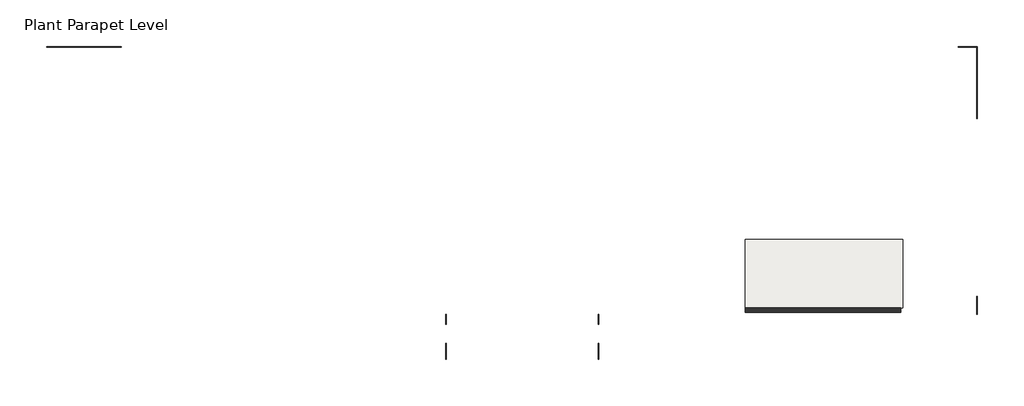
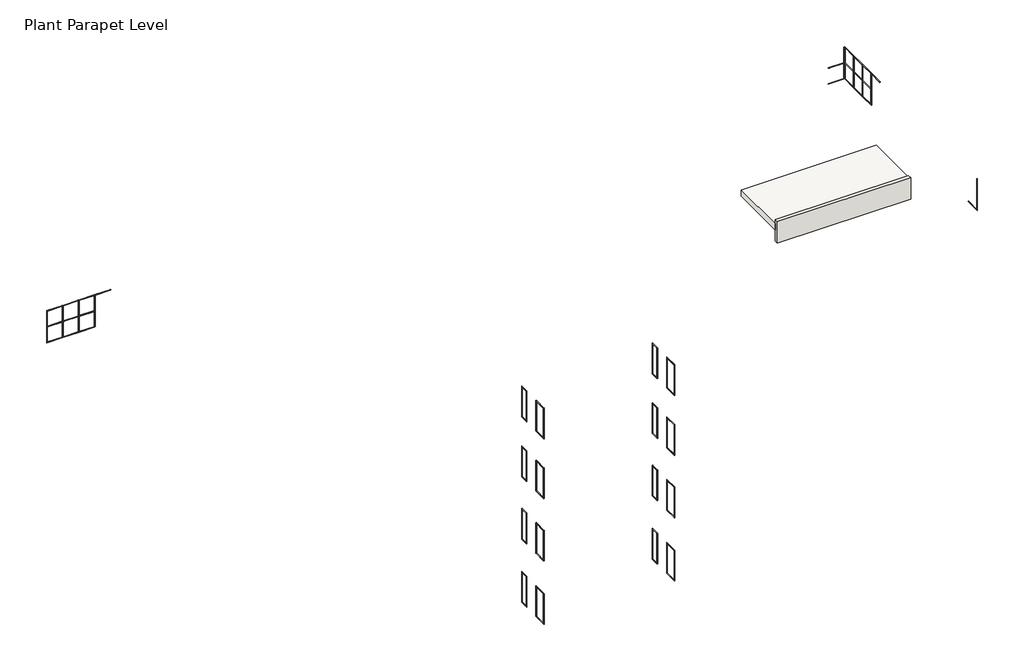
# One storey: 107 members, 1 roof, 1 wall.
"""IFC4 building model written with IfcOpenShell, lengths in millimetres."""

import ifcopenshell
import ifcopenshell.guid

model = None  # the IFC model being written
_history = None  # IfcOwnerHistory: only IFC2X3 demands one
_inside = {}  # id of a spatial element -> (the spatial element, [elements in it])
_under = {}  # id of a project, library or spatial element -> (it, [spatial elements below it])
_declared = {}  # id of a project -> (the project, [libraries it declares])
_typed = {}  # id of a type object -> (the type object, [elements of that type])
_made_of = {}  # id of a material, layer set ... -> (it, [elements and type objects made of it])


def new_model(schema):
    """Start an empty IFC model of exactly this schema.

    Asked for "IFC4X3", IfcOpenShell would pick the latest addendum, in which some entities
    have other attributes; the version numbers below select the first issue.
    IFC2X3 requires an IfcOwnerHistory on every rooted entity: one is made here for all.
    """
    global model, _history
    if schema == "IFC4X3":
        model = ifcopenshell.file(schema_version=(4, 3, 0, 0))
    else:
        model = ifcopenshell.file(schema=schema)
    _inside.clear()
    _under.clear()
    _declared.clear()
    _typed.clear()
    _made_of.clear()
    _history = None
    if model.schema == "IFC2X3":
        org = make("IfcOrganization", Name="unknown")
        user = make(
            "IfcPersonAndOrganization",
            ThePerson=make("IfcPerson", FamilyName="unknown"),
            TheOrganization=org,
        )
        app = make(
            "IfcApplication",
            ApplicationDeveloper=org,
            Version="unknown",
            ApplicationFullName="unknown",
            ApplicationIdentifier="unknown",
        )
        _history = make(
            "IfcOwnerHistory",
            OwningUser=user,
            OwningApplication=app,
            ChangeAction="ADDED",
            CreationDate=0,
        )
    return model


def make(cls, **values):
    """One entity of the class cls with the attributes given. An attribute that is None is left unset."""
    return model.create_entity(
        cls, **{name: value for name, value in values.items() if value is not None}
    )


def rooted(cls, **values):
    """An entity with a GlobalId (a new one), such as an element, a storey or a relation."""
    return make(cls, GlobalId=ifcopenshell.guid.new(), OwnerHistory=_history, **values)


def si_unit(unit_type, name, prefix=None):
    """IfcSIUnit, for example si_unit("LENGTHUNIT", "METRE", prefix="MILLI")."""
    return make("IfcSIUnit", UnitType=unit_type, Prefix=prefix, Name=name)


def assignment(units):
    """IfcUnitAssignment: the units of a project."""
    return None if units is None else make("IfcUnitAssignment", Units=units)


def point(xyz):
    """IfcCartesianPoint."""
    return None if xyz is None else make("IfcCartesianPoint", Coordinates=xyz)


def direction(xyz):
    """IfcDirection."""
    return None if xyz is None else make("IfcDirection", DirectionRatios=xyz)


def frame(location, z_axis=None, x_axis=None):
    """IfcAxis2Placement3D, a coordinate frame: its origin and axes. An axis left out is left unset."""
    return make(
        "IfcAxis2Placement3D",
        Location=point(location),
        Axis=direction(z_axis),
        RefDirection=direction(x_axis),
    )


def origin():
    """The frame at (0, 0, 0) with its axes left unset."""
    return frame((0.0, 0.0, 0.0))


def place(relative_to, where):
    """IfcLocalPlacement: puts the frame where relative to a parent placement (None: the world)."""
    return make(
        "IfcLocalPlacement", PlacementRelTo=relative_to, RelativePlacement=where
    )


def context(
    kind, dimensions, precision=None, world=None, true_north=None, identifier=None
):
    """IfcGeometricRepresentationContext, for example the 3D "Model" context."""
    return make(
        "IfcGeometricRepresentationContext",
        ContextIdentifier=identifier,
        ContextType=kind,
        CoordinateSpaceDimension=dimensions,
        Precision=precision,
        WorldCoordinateSystem=world,
        TrueNorth=true_north,
    )


def project(units=None, contexts=None):
    """IfcProject with its units and contexts."""
    return rooted(
        "IfcProject",
        Name="project",
        RepresentationContexts=contexts,
        UnitsInContext=assignment(units),
    )


def spatial(cls, under=None, at=None, **own):
    """A site, building, storey or space (cls), placed at a placement, below another one or the project."""
    s = rooted(cls, ObjectPlacement=at, **own)
    if under is not None:
        _under.setdefault(under.id(), (under, []))[1].append(s)
    return s


def polyline(points):
    """IfcPolyline through the points."""
    return make("IfcPolyline", Points=[point(p) for p in points])


def outline(outer, holes=None, kind="AREA"):
    """IfcArbitraryClosedProfileDef: a profile drawn as a closed curve; with holes, ...WithVoids."""
    if holes is None:
        return make("IfcArbitraryClosedProfileDef", ProfileType=kind, OuterCurve=outer)
    return make(
        "IfcArbitraryProfileDefWithVoids",
        ProfileType=kind,
        OuterCurve=outer,
        InnerCurves=holes,
    )


def extrude(swept, where, along, depth):
    """IfcExtrudedAreaSolid: the profile swept, set in the frame where, extruded along a direction by depth."""
    return make(
        "IfcExtrudedAreaSolid",
        SweptArea=swept,
        Position=where,
        ExtrudedDirection=direction(along),
        Depth=depth,
    )


def shape(context_of_items, identifier, shape_type, items):
    """IfcShapeRepresentation: the items that make up one representation, for example the "Body"."""
    return make(
        "IfcShapeRepresentation",
        ContextOfItems=context_of_items,
        RepresentationIdentifier=identifier,
        RepresentationType=shape_type,
        Items=items,
    )


def source(mapping_origin, context_of_items, identifier, shape_type, items):
    """IfcRepresentationMap: a shape defined once, which mapped items show again and again."""
    return make(
        "IfcRepresentationMap",
        MappingOrigin=mapping_origin,
        MappedRepresentation=shape(context_of_items, identifier, shape_type, items),
    )


def transform(
    local_origin,
    x_axis=None,
    y_axis=None,
    z_axis=None,
    scale=None,
    scale2=None,
    scale3=None,
    uniform=True,
):
    """IfcCartesianTransformationOperator3D, or its non-uniform kind. x_axis, y_axis, z_axis: its Axis1, 2, 3."""
    if uniform:
        return make(
            "IfcCartesianTransformationOperator3D",
            Axis1=direction(x_axis),
            Axis2=direction(y_axis),
            LocalOrigin=point(local_origin),
            Scale=scale,
            Axis3=direction(z_axis),
        )
    return make(
        "IfcCartesianTransformationOperator3DnonUniform",
        Axis1=direction(x_axis),
        Axis2=direction(y_axis),
        LocalOrigin=point(local_origin),
        Scale=scale,
        Axis3=direction(z_axis),
        Scale2=scale2,
        Scale3=scale3,
    )


def mapped(mapping_source, mapping_target):
    """IfcMappedItem: shows the shape of a source again, moved by a transform."""
    return make(
        "IfcMappedItem", MappingSource=mapping_source, MappingTarget=mapping_target
    )


def made_of(thing, what):
    """Note that an element or type object is made of a material, layer set ...; save() writes the relation."""
    if what is not None:
        _made_of.setdefault(what.id(), (what, []))[1].append(thing)
    return thing


def element(
    cls,
    number,
    at=None,
    inside=None,
    cuts=None,
    type_object=None,
    material=None,
    context=None,
    identifier="Body",
    shape_type=None,
    held_by="IfcProductDefinitionShape",
    body=None,
    shapes=None,
    **own,
):
    """One element of the class cls, such as IfcWall. Its Tag is "e" and its number.

    at: its placement. inside: the storey or other place that contains it. cuts: it is an
    opening in that element (IfcRelVoidsElement). A single representation is given by context,
    identifier, shape_type and body (its items); several are given by shapes. held_by: the class
    of the entity that holds the representations. save() writes the other relations.
    """
    e = rooted(cls, Tag="e%d" % number, ObjectPlacement=at, **own)
    if body is not None:
        shapes = [shape(context, identifier, shape_type, body)]
    if shapes is not None:
        e.Representation = make(held_by, Representations=shapes)
    if inside is not None:
        _inside.setdefault(inside.id(), (inside, []))[1].append(e)
    if cuts is not None:
        rooted(
            "IfcRelVoidsElement", RelatingBuildingElement=cuts, RelatedOpeningElement=e
        )
    if type_object is not None:
        _typed.setdefault(type_object.id(), (type_object, []))[1].append(e)
    return made_of(e, material)


def aggregate(whole, parts):
    """IfcRelAggregates: a whole, such as a stair, and the parts it consists of."""
    return rooted("IfcRelAggregates", RelatingObject=whole, RelatedObjects=parts)


def save(model, path):
    """Write the relations noted so far, then the file.

    IfcRelAggregates (storeys below a building ...), IfcRelContainedInSpatialStructure (elements
    in a storey), IfcRelDefinesByType, IfcRelAssociatesMaterial and IfcRelDeclares: one each for
    every whole, place, type object, material and project.
    """
    for whole, parts in _under.values():
        aggregate(whole, parts)
    for where, things in _inside.values():
        rooted(
            "IfcRelContainedInSpatialStructure",
            RelatedElements=things,
            RelatingStructure=where,
        )
    for kind, things in _typed.values():
        rooted("IfcRelDefinesByType", RelatedObjects=things, RelatingType=kind)
    for what, things in _made_of.values():
        rooted("IfcRelAssociatesMaterial", RelatedObjects=things, RelatingMaterial=what)
    for by, libraries in _declared.values():
        rooted("IfcRelDeclares", RelatingContext=by, RelatedDefinitions=libraries)
    model.write(path)


def rectangular_mullion_25x25mm_8b97148a(model_context):
    return source(origin(), model_context, "Body", "SweptSolid", [
        extrude(outline(polyline([(0.0, 0.5), (0.0, -24.5), (-25.0, -24.5), (-25.0, 0.5), (0.0, 0.5)])), frame((0.0, 0.0, -710.0), z_axis=(0.0, 0.0, 1.0), x_axis=(1.0, 0.0, 0.0)), (0.0, 0.0, 1.0), 710.0),
    ])


def rectangular_mullion_25x25mm_4954c3ac(model_context):
    return source(origin(), model_context, "Body", "SweptSolid", [
        extrude(outline(polyline([(0.0, 0.5), (0.0, -24.5), (-25.0, -24.5), (-25.0, 0.5), (0.0, 0.5)])), frame((0.0, 0.0, -1810.0), z_axis=(0.0, 0.0, 1.0), x_axis=(1.0, 0.0, 0.0)), (0.0, 0.0, 1.0), 1810.0),
    ])


def rectangular_mullion_25x25mm_dab48287(model_context):
    return source(origin(), model_context, "Body", "SweptSolid", [
        extrude(outline(polyline([(0.0, 0.5), (0.0, -24.5), (-25.0, -24.5), (-25.0, 0.5), (0.0, 0.5)])), frame((0.0, 0.0, -436.25), z_axis=(0.0, 0.0, 1.0), x_axis=(1.0, 0.0, 0.0)), (0.0, 0.0, 1.0), 436.25),
    ])


def rectangular_mullion_25x25mm_bb12a420(model_context):
    return source(origin(), model_context, "Body", "SweptSolid", [
        extrude(outline(polyline([(0.0, 24.5), (0.0, -0.5), (-25.0, -0.5), (-25.0, 24.5), (0.0, 24.5)])), frame((0.0, 0.0, -710.0), z_axis=(0.0, 0.0, 1.0), x_axis=(1.0, 0.0, 0.0)), (0.0, 0.0, 1.0), 710.0),
    ])


def rectangular_mullion_25x25mm_6c4dc9a9(model_context):
    return source(origin(), model_context, "Body", "SweptSolid", [
        extrude(outline(polyline([(0.0, 24.5), (0.0, -0.5), (-25.0, -0.5), (-25.0, 24.5), (0.0, 24.5)])), frame((0.0, 0.0, -1810.0), z_axis=(0.0, 0.0, 1.0), x_axis=(1.0, 0.0, 0.0)), (0.0, 0.0, 1.0), 1810.0),
    ])


def rectangular_mullion_25x25mm_394869ee(model_context):
    return source(origin(), model_context, "Body", "SweptSolid", [
        extrude(outline(polyline([(0.0, 24.5), (0.0, -0.5), (-25.0, -0.5), (-25.0, 24.5), (0.0, 24.5)])), frame((0.0, 0.0, -436.25), z_axis=(0.0, 0.0, 1.0), x_axis=(1.0, 0.0, 0.0)), (0.0, 0.0, 1.0), 436.25),
    ])


def rectangular_mullion_25x25mm_ef735152(model_context):
    return source(origin(), model_context, "Body", "SweptSolid", [
        extrude(outline(polyline([(12.5, 24.5), (12.5, -0.5), (-12.5, -0.5), (-12.5, 24.5), (12.5, 24.5)])), frame((0.0, 0.0, -925.0), z_axis=(0.0, 0.0, 1.0), x_axis=(1.0, 0.0, 0.0)), (0.0, 0.0, 1.0), 925.0),
    ])


def rectangular_mullion_25x25mm_fdefeb7a(model_context):
    return source(origin(), model_context, "Body", "SweptSolid", [
        extrude(outline(polyline([(0.0, 24.5), (0.0, -0.5), (-25.0, -0.5), (-25.0, 24.5), (0.0, 24.5)])), frame((0.0, 0.0, -925.0), z_axis=(0.0, 0.0, 1.0), x_axis=(1.0, 0.0, 0.0)), (0.0, 0.0, 1.0), 925.0),
    ])


def rectangular_mullion_25x25mm_e320bbb5(model_context):
    return source(origin(), model_context, "Body", "SweptSolid", [
        extrude(outline(polyline([(0.0, 24.5), (0.0, -0.5), (-25.0, -0.5), (-25.0, 24.5), (0.0, 24.5)])), frame((0.0, 0.0, -906.7603315), z_axis=(0.0, 0.0, 1.0), x_axis=(1.0, 0.0, 0.0)), (0.0, 0.0, 1.0), 906.7603315),
    ])


def rectangular_mullion_25x25mm_e862664b(model_context):
    return source(origin(), model_context, "Body", "SweptSolid", [
        extrude(outline(polyline([(0.0, 24.5), (0.0, -0.5), (-25.0, -0.5), (-25.0, 24.5), (0.0, 24.5)])), frame((0.0, 0.0, -894.2603312), z_axis=(0.0, 0.0, 1.0), x_axis=(1.0, 0.0, 0.0)), (0.0, 0.0, 1.0), 894.2603312),
    ])


def rectangular_mullion_25x25mm_5cbb2f7b(model_context):
    return source(origin(), model_context, "Body", "SweptSolid", [
        extrude(outline(polyline([(12.5, 24.5), (12.5, -0.5), (-12.5, -0.5), (-12.5, 24.5), (12.5, 24.5)])), frame((0.0, 0.0, -869.2603315), z_axis=(0.0, 0.0, 1.0), x_axis=(1.0, 0.0, 0.0)), (0.0, 0.0, 1.0), 869.2603315),
    ])


def rectangular_mullion_25x25mm_1307ac6f(model_context):
    return source(origin(), model_context, "Body", "SweptSolid", [
        extrude(outline(polyline([(-0.5, -0.5), (24.5, 24.5), (24.5, -906.7703315), (-0.5, -906.7703315), (-0.5, -0.5)])), frame((-25.0, 0.0, 0.0), z_axis=(1.0, 0.0, 0.0), x_axis=(0.0, 1.0, 0.0)), (0.0, 0.0, 1.0), 25.0),
    ])


def rectangular_mullion_25x25mm_8def5214(model_context):
    return source(origin(), model_context, "Body", "SweptSolid", [
        extrude(outline(polyline([(-0.5, 0.0), (24.5, 0.0), (24.5, -893.2836067), (-0.5, -868.2836067), (-0.5, 0.0)])), frame((-25.0, 0.0, 0.0), z_axis=(1.0, 0.0, 0.0), x_axis=(0.0, 1.0, 0.0)), (0.0, 0.0, 1.0), 25.0),
    ])


def rectangular_mullion_25x25mm_4c6f7a3a(model_context):
    return source(origin(), model_context, "Body", "SweptSolid", [
        extrude(outline(polyline([(-0.5, -0.5), (24.5, 24.5), (24.5, -868.7836067), (-0.5, -868.7836067), (-0.5, -0.5)])), frame((-25.0, 0.0, 0.0), z_axis=(1.0, 0.0, 0.0), x_axis=(0.0, 1.0, 0.0)), (0.0, 0.0, 1.0), 25.0),
    ])


def rectangular_mullion_25x25mm_4965c664(model_context):
    return source(origin(), model_context, "Body", "SweptSolid", [
        extrude(outline(polyline([(0.0, 24.5), (0.0, -0.5), (-25.0, -0.5), (-25.0, 24.5), (0.0, 24.5)])), frame((0.0, 0.0, -856.2836064), z_axis=(0.0, 0.0, 1.0), x_axis=(1.0, 0.0, 0.0)), (0.0, 0.0, 1.0), 856.2836064),
    ])


def rectangular_mullion_25x25mm_24ec2a09(model_context):
    return source(origin(), model_context, "Body", "SweptSolid", [
        extrude(outline(polyline([(0.0, 24.5), (0.0, -0.5), (-25.0, -0.5), (-25.0, 24.5), (0.0, 24.5)])), frame((0.0, 0.0, -868.7836067), z_axis=(0.0, 0.0, 1.0), x_axis=(1.0, 0.0, 0.0)), (0.0, 0.0, 1.0), 868.7836067),
    ])


def rectangular_mullion_25x25mm_c76a5620(model_context):
    return source(origin(), model_context, "Body", "SweptSolid", [
        extrude(outline(polyline([(12.5, 24.5), (12.5, -0.5), (-12.5, -0.5), (-12.5, 24.5), (12.5, 24.5)])), frame((0.0, 0.0, -831.2836064), z_axis=(0.0, 0.0, 1.0), x_axis=(1.0, 0.0, 0.0)), (0.0, 0.0, 1.0), 831.2836064),
    ])


model = new_model("IFC4")

# Units and contexts
model_context = context("Model", 3, world=origin())
ifc_project = project(units=[si_unit("LENGTHUNIT", "METRE", prefix="MILLI")], contexts=[model_context])

# Site, building, storey
site = spatial("IfcSite", under=ifc_project)
building = spatial("IfcBuilding", under=site)
storey = spatial("IfcBuildingStorey", under=building, Name="Plant Parapet Level", Elevation=16500.0)

# Members
placement = place(None, origin())
rectangular_mullion_25x25mm_shape = rectangular_mullion_25x25mm_8b97148a(model_context)
element("IfcMember", 1, ObjectType="Rectangular Mullion : 25x25mm", at=placement, inside=storey, context=model_context, shape_type="MappedRepresentation", body=[
    mapped(rectangular_mullion_25x25mm_shape, transform((24873.2942367, -5692.5053409, 2110.0), x_axis=(0.0, 0.0, 1.0), y_axis=(-1.0, 0.0, 0.0), z_axis=(0.0, -1.0, 0.0))),
])
element("IfcMember", 2, ObjectType="Rectangular Mullion : 25x25mm", at=placement, inside=storey, context=model_context, shape_type="MappedRepresentation", body=[
    mapped(rectangular_mullion_25x25mm_shape, transform((24873.2942367, -5692.5053409, 5860.0), x_axis=(0.0, 0.0, 1.0), y_axis=(-1.0, 0.0, 0.0), z_axis=(0.0, -1.0, 0.0))),
])
element("IfcMember", 3, ObjectType="Rectangular Mullion : 25x25mm", at=placement, inside=storey, context=model_context, shape_type="MappedRepresentation", body=[
    mapped(rectangular_mullion_25x25mm_shape, transform((24873.2942367, -5692.5053409, 9560.0), x_axis=(0.0, 0.0, 1.0), y_axis=(-1.0, 0.0, 0.0), z_axis=(0.0, -1.0, 0.0))),
])
element("IfcMember", 4, ObjectType="Rectangular Mullion : 25x25mm", at=placement, inside=storey, context=model_context, shape_type="MappedRepresentation", body=[
    mapped(rectangular_mullion_25x25mm_shape, transform((24873.2942367, -5692.5053409, 13110.0), x_axis=(0.0, 0.0, 1.0), y_axis=(-1.0, 0.0, 0.0), z_axis=(0.0, -1.0, 0.0))),
])
element("IfcMember", 5, ObjectType="Rectangular Mullion : 25x25mm", at=placement, inside=storey, context=model_context, shape_type="MappedRepresentation", body=[
    mapped(rectangular_mullion_25x25mm_shape, transform((24873.2942367, -4982.5053409, 300.0), x_axis=(0.0, 0.0, -1.0), y_axis=(-1.0, 0.0, 0.0), z_axis=(0.0, 1.0, 0.0))),
])
element("IfcMember", 6, ObjectType="Rectangular Mullion : 25x25mm", at=placement, inside=storey, context=model_context, shape_type="MappedRepresentation", body=[
    mapped(rectangular_mullion_25x25mm_shape, transform((24873.2942367, -4982.5053409, 4050.0), x_axis=(0.0, 0.0, -1.0), y_axis=(-1.0, 0.0, 0.0), z_axis=(0.0, 1.0, 0.0))),
])
element("IfcMember", 7, ObjectType="Rectangular Mullion : 25x25mm", at=placement, inside=storey, context=model_context, shape_type="MappedRepresentation", body=[
    mapped(rectangular_mullion_25x25mm_shape, transform((24873.2942367, -4982.5053409, 7750.0), x_axis=(0.0, 0.0, -1.0), y_axis=(-1.0, 0.0, 0.0), z_axis=(0.0, 1.0, 0.0))),
])
element("IfcMember", 8, ObjectType="Rectangular Mullion : 25x25mm", at=placement, inside=storey, context=model_context, shape_type="MappedRepresentation", body=[
    mapped(rectangular_mullion_25x25mm_shape, transform((24873.2942367, -4982.5053409, 11300.0), x_axis=(0.0, 0.0, -1.0), y_axis=(-1.0, 0.0, 0.0), z_axis=(0.0, 1.0, 0.0))),
])
rectangular_mullion_25x25mm_2_shape = rectangular_mullion_25x25mm_4954c3ac(model_context)
element("IfcMember", 9, ObjectType="Rectangular Mullion : 25x25mm", at=placement, inside=storey, context=model_context, shape_type="MappedRepresentation", body=[
    mapped(rectangular_mullion_25x25mm_2_shape, transform((24873.2942367, -5717.5053409, 300.0), x_axis=(0.0, -1.0, 0.0), y_axis=(-1.0, 0.0, 0.0), z_axis=(0.0, 0.0, -1.0))),
])
element("IfcMember", 10, ObjectType="Rectangular Mullion : 25x25mm", at=placement, inside=storey, context=model_context, shape_type="MappedRepresentation", body=[
    mapped(rectangular_mullion_25x25mm_2_shape, transform((24873.2942367, -4046.2553409, 300.0), x_axis=(0.0, -1.0, 0.0), y_axis=(-1.0, 0.0, 0.0), z_axis=(0.0, 0.0, -1.0))),
])
element("IfcMember", 11, ObjectType="Rectangular Mullion : 25x25mm", at=placement, inside=storey, context=model_context, shape_type="MappedRepresentation", body=[
    mapped(rectangular_mullion_25x25mm_2_shape, transform((24873.2942367, -5717.5053409, 4050.0), x_axis=(0.0, -1.0, 0.0), y_axis=(-1.0, 0.0, 0.0), z_axis=(0.0, 0.0, -1.0))),
])
element("IfcMember", 12, ObjectType="Rectangular Mullion : 25x25mm", at=placement, inside=storey, context=model_context, shape_type="MappedRepresentation", body=[
    mapped(rectangular_mullion_25x25mm_2_shape, transform((24873.2942367, -4046.2553409, 4050.0), x_axis=(0.0, -1.0, 0.0), y_axis=(-1.0, 0.0, 0.0), z_axis=(0.0, 0.0, -1.0))),
])
element("IfcMember", 13, ObjectType="Rectangular Mullion : 25x25mm", at=placement, inside=storey, context=model_context, shape_type="MappedRepresentation", body=[
    mapped(rectangular_mullion_25x25mm_2_shape, transform((24873.2942367, -5717.5053409, 7750.0), x_axis=(0.0, -1.0, 0.0), y_axis=(-1.0, 0.0, 0.0), z_axis=(0.0, 0.0, -1.0))),
])
element("IfcMember", 14, ObjectType="Rectangular Mullion : 25x25mm", at=placement, inside=storey, context=model_context, shape_type="MappedRepresentation", body=[
    mapped(rectangular_mullion_25x25mm_2_shape, transform((24873.2942367, -4046.2553409, 7750.0), x_axis=(0.0, -1.0, 0.0), y_axis=(-1.0, 0.0, 0.0), z_axis=(0.0, 0.0, -1.0))),
])
element("IfcMember", 15, ObjectType="Rectangular Mullion : 25x25mm", at=placement, inside=storey, context=model_context, shape_type="MappedRepresentation", body=[
    mapped(rectangular_mullion_25x25mm_2_shape, transform((24873.2942367, -5717.5053409, 11300.0), x_axis=(0.0, -1.0, 0.0), y_axis=(-1.0, 0.0, 0.0), z_axis=(0.0, 0.0, -1.0))),
])
element("IfcMember", 16, ObjectType="Rectangular Mullion : 25x25mm", at=placement, inside=storey, context=model_context, shape_type="MappedRepresentation", body=[
    mapped(rectangular_mullion_25x25mm_2_shape, transform((24873.2942367, -4046.2553409, 11300.0), x_axis=(0.0, -1.0, 0.0), y_axis=(-1.0, 0.0, 0.0), z_axis=(0.0, 0.0, -1.0))),
])
element("IfcMember", 17, ObjectType="Rectangular Mullion : 25x25mm", at=placement, inside=storey, context=model_context, shape_type="MappedRepresentation", body=[
    mapped(rectangular_mullion_25x25mm_2_shape, transform((24873.2942367, -4957.5053409, 2110.0), x_axis=(0.0, 1.0, 0.0), y_axis=(-1.0, 0.0, 0.0), z_axis=(0.0, 0.0, 1.0))),
])
element("IfcMember", 18, ObjectType="Rectangular Mullion : 25x25mm", at=placement, inside=storey, context=model_context, shape_type="MappedRepresentation", body=[
    mapped(rectangular_mullion_25x25mm_2_shape, transform((24873.2942367, -3560.0053409, 2110.0), x_axis=(0.0, 1.0, 0.0), y_axis=(-1.0, 0.0, 0.0), z_axis=(0.0, 0.0, 1.0))),
])
element("IfcMember", 19, ObjectType="Rectangular Mullion : 25x25mm", at=placement, inside=storey, context=model_context, shape_type="MappedRepresentation", body=[
    mapped(rectangular_mullion_25x25mm_2_shape, transform((24873.2942367, -4957.5053409, 5860.0), x_axis=(0.0, 1.0, 0.0), y_axis=(-1.0, 0.0, 0.0), z_axis=(0.0, 0.0, 1.0))),
])
element("IfcMember", 20, ObjectType="Rectangular Mullion : 25x25mm", at=placement, inside=storey, context=model_context, shape_type="MappedRepresentation", body=[
    mapped(rectangular_mullion_25x25mm_2_shape, transform((24873.2942367, -3560.0053409, 5860.0), x_axis=(0.0, 1.0, 0.0), y_axis=(-1.0, 0.0, 0.0), z_axis=(0.0, 0.0, 1.0))),
])
element("IfcMember", 21, ObjectType="Rectangular Mullion : 25x25mm", at=placement, inside=storey, context=model_context, shape_type="MappedRepresentation", body=[
    mapped(rectangular_mullion_25x25mm_2_shape, transform((24873.2942367, -4957.5053409, 9560.0), x_axis=(0.0, 1.0, 0.0), y_axis=(-1.0, 0.0, 0.0), z_axis=(0.0, 0.0, 1.0))),
])
element("IfcMember", 22, ObjectType="Rectangular Mullion : 25x25mm", at=placement, inside=storey, context=model_context, shape_type="MappedRepresentation", body=[
    mapped(rectangular_mullion_25x25mm_2_shape, transform((24873.2942367, -3560.0053409, 9560.0), x_axis=(0.0, 1.0, 0.0), y_axis=(-1.0, 0.0, 0.0), z_axis=(0.0, 0.0, 1.0))),
])
element("IfcMember", 23, ObjectType="Rectangular Mullion : 25x25mm", at=placement, inside=storey, context=model_context, shape_type="MappedRepresentation", body=[
    mapped(rectangular_mullion_25x25mm_2_shape, transform((24873.2942367, -4957.5053409, 13110.0), x_axis=(0.0, 1.0, 0.0), y_axis=(-1.0, 0.0, 0.0), z_axis=(0.0, 0.0, 1.0))),
])
element("IfcMember", 24, ObjectType="Rectangular Mullion : 25x25mm", at=placement, inside=storey, context=model_context, shape_type="MappedRepresentation", body=[
    mapped(rectangular_mullion_25x25mm_2_shape, transform((24873.2942367, -3560.0053409, 13110.0), x_axis=(0.0, 1.0, 0.0), y_axis=(-1.0, 0.0, 0.0), z_axis=(0.0, 0.0, 1.0))),
])
rectangular_mullion_25x25mm_3_shape = rectangular_mullion_25x25mm_dab48287(model_context)
element("IfcMember", 25, ObjectType="Rectangular Mullion : 25x25mm", at=placement, inside=storey, context=model_context, shape_type="MappedRepresentation", body=[
    mapped(rectangular_mullion_25x25mm_3_shape, transform((24873.2942367, -4021.2553409, 2110.0), x_axis=(0.0, 0.0, 1.0), y_axis=(-1.0, 0.0, 0.0), z_axis=(0.0, -1.0, 0.0))),
])
element("IfcMember", 26, ObjectType="Rectangular Mullion : 25x25mm", at=placement, inside=storey, context=model_context, shape_type="MappedRepresentation", body=[
    mapped(rectangular_mullion_25x25mm_3_shape, transform((24873.2942367, -4021.2553409, 5860.0), x_axis=(0.0, 0.0, 1.0), y_axis=(-1.0, 0.0, 0.0), z_axis=(0.0, -1.0, 0.0))),
])
element("IfcMember", 27, ObjectType="Rectangular Mullion : 25x25mm", at=placement, inside=storey, context=model_context, shape_type="MappedRepresentation", body=[
    mapped(rectangular_mullion_25x25mm_3_shape, transform((24873.2942367, -4021.2553409, 9560.0), x_axis=(0.0, 0.0, 1.0), y_axis=(-1.0, 0.0, 0.0), z_axis=(0.0, -1.0, 0.0))),
])
element("IfcMember", 28, ObjectType="Rectangular Mullion : 25x25mm", at=placement, inside=storey, context=model_context, shape_type="MappedRepresentation", body=[
    mapped(rectangular_mullion_25x25mm_3_shape, transform((24873.2942367, -4021.2553409, 13110.0), x_axis=(0.0, 0.0, 1.0), y_axis=(-1.0, 0.0, 0.0), z_axis=(0.0, -1.0, 0.0))),
])
element("IfcMember", 29, ObjectType="Rectangular Mullion : 25x25mm", at=placement, inside=storey, context=model_context, shape_type="MappedRepresentation", body=[
    mapped(rectangular_mullion_25x25mm_3_shape, transform((24873.2942367, -3585.0053409, 300.0), x_axis=(0.0, 0.0, -1.0), y_axis=(-1.0, 0.0, 0.0), z_axis=(0.0, 1.0, 0.0))),
])
element("IfcMember", 30, ObjectType="Rectangular Mullion : 25x25mm", at=placement, inside=storey, context=model_context, shape_type="MappedRepresentation", body=[
    mapped(rectangular_mullion_25x25mm_3_shape, transform((24873.2942367, -3585.0053409, 4050.0), x_axis=(0.0, 0.0, -1.0), y_axis=(-1.0, 0.0, 0.0), z_axis=(0.0, 1.0, 0.0))),
])
element("IfcMember", 31, ObjectType="Rectangular Mullion : 25x25mm", at=placement, inside=storey, context=model_context, shape_type="MappedRepresentation", body=[
    mapped(rectangular_mullion_25x25mm_3_shape, transform((24873.2942367, -3585.0053409, 7750.0), x_axis=(0.0, 0.0, -1.0), y_axis=(-1.0, 0.0, 0.0), z_axis=(0.0, 1.0, 0.0))),
])
element("IfcMember", 32, ObjectType="Rectangular Mullion : 25x25mm", at=placement, inside=storey, context=model_context, shape_type="MappedRepresentation", body=[
    mapped(rectangular_mullion_25x25mm_3_shape, transform((24873.2942367, -3585.0053409, 11300.0), x_axis=(0.0, 0.0, -1.0), y_axis=(-1.0, 0.0, 0.0), z_axis=(0.0, 1.0, 0.0))),
])
rectangular_mullion_25x25mm_4_shape = rectangular_mullion_25x25mm_bb12a420(model_context)
element("IfcMember", 33, ObjectType="Rectangular Mullion : 25x25mm", at=placement, inside=storey, context=model_context, shape_type="MappedRepresentation", body=[
    mapped(rectangular_mullion_25x25mm_4_shape, transform((17573.2942367, -5692.5053409, 2110.0), x_axis=(0.0, 0.0, 1.0), y_axis=(-1.0, 0.0, 0.0), z_axis=(0.0, -1.0, 0.0))),
])
element("IfcMember", 34, ObjectType="Rectangular Mullion : 25x25mm", at=placement, inside=storey, context=model_context, shape_type="MappedRepresentation", body=[
    mapped(rectangular_mullion_25x25mm_4_shape, transform((17573.2942367, -5692.5053409, 5860.0), x_axis=(0.0, 0.0, 1.0), y_axis=(-1.0, 0.0, 0.0), z_axis=(0.0, -1.0, 0.0))),
])
element("IfcMember", 35, ObjectType="Rectangular Mullion : 25x25mm", at=placement, inside=storey, context=model_context, shape_type="MappedRepresentation", body=[
    mapped(rectangular_mullion_25x25mm_4_shape, transform((17573.2942367, -5692.5053409, 9560.0), x_axis=(0.0, 0.0, 1.0), y_axis=(-1.0, 0.0, 0.0), z_axis=(0.0, -1.0, 0.0))),
])
element("IfcMember", 36, ObjectType="Rectangular Mullion : 25x25mm", at=placement, inside=storey, context=model_context, shape_type="MappedRepresentation", body=[
    mapped(rectangular_mullion_25x25mm_4_shape, transform((17573.2942367, -5692.5053409, 13110.0), x_axis=(0.0, 0.0, 1.0), y_axis=(-1.0, 0.0, 0.0), z_axis=(0.0, -1.0, 0.0))),
])
element("IfcMember", 37, ObjectType="Rectangular Mullion : 25x25mm", at=placement, inside=storey, context=model_context, shape_type="MappedRepresentation", body=[
    mapped(rectangular_mullion_25x25mm_4_shape, transform((17573.2942367, -4982.5053409, 300.0), x_axis=(0.0, 0.0, -1.0), y_axis=(-1.0, 0.0, 0.0), z_axis=(0.0, 1.0, 0.0))),
])
element("IfcMember", 38, ObjectType="Rectangular Mullion : 25x25mm", at=placement, inside=storey, context=model_context, shape_type="MappedRepresentation", body=[
    mapped(rectangular_mullion_25x25mm_4_shape, transform((17573.2942367, -4982.5053409, 4050.0), x_axis=(0.0, 0.0, -1.0), y_axis=(-1.0, 0.0, 0.0), z_axis=(0.0, 1.0, 0.0))),
])
element("IfcMember", 39, ObjectType="Rectangular Mullion : 25x25mm", at=placement, inside=storey, context=model_context, shape_type="MappedRepresentation", body=[
    mapped(rectangular_mullion_25x25mm_4_shape, transform((17573.2942367, -4982.5053409, 7750.0), x_axis=(0.0, 0.0, -1.0), y_axis=(-1.0, 0.0, 0.0), z_axis=(0.0, 1.0, 0.0))),
])
element("IfcMember", 40, ObjectType="Rectangular Mullion : 25x25mm", at=placement, inside=storey, context=model_context, shape_type="MappedRepresentation", body=[
    mapped(rectangular_mullion_25x25mm_4_shape, transform((17573.2942367, -4982.5053409, 11300.0), x_axis=(0.0, 0.0, -1.0), y_axis=(-1.0, 0.0, 0.0), z_axis=(0.0, 1.0, 0.0))),
])
rectangular_mullion_25x25mm_5_shape = rectangular_mullion_25x25mm_6c4dc9a9(model_context)
element("IfcMember", 41, ObjectType="Rectangular Mullion : 25x25mm", at=placement, inside=storey, context=model_context, shape_type="MappedRepresentation", body=[
    mapped(rectangular_mullion_25x25mm_5_shape, transform((17573.2942367, -5717.5053409, 300.0), x_axis=(0.0, -1.0, 0.0), y_axis=(-1.0, 0.0, 0.0), z_axis=(0.0, 0.0, -1.0))),
])
element("IfcMember", 42, ObjectType="Rectangular Mullion : 25x25mm", at=placement, inside=storey, context=model_context, shape_type="MappedRepresentation", body=[
    mapped(rectangular_mullion_25x25mm_5_shape, transform((17573.2942367, -4046.2553409, 300.0), x_axis=(0.0, -1.0, 0.0), y_axis=(-1.0, 0.0, 0.0), z_axis=(0.0, 0.0, -1.0))),
])
element("IfcMember", 43, ObjectType="Rectangular Mullion : 25x25mm", at=placement, inside=storey, context=model_context, shape_type="MappedRepresentation", body=[
    mapped(rectangular_mullion_25x25mm_5_shape, transform((17573.2942367, -5717.5053409, 4050.0), x_axis=(0.0, -1.0, 0.0), y_axis=(-1.0, 0.0, 0.0), z_axis=(0.0, 0.0, -1.0))),
])
element("IfcMember", 44, ObjectType="Rectangular Mullion : 25x25mm", at=placement, inside=storey, context=model_context, shape_type="MappedRepresentation", body=[
    mapped(rectangular_mullion_25x25mm_5_shape, transform((17573.2942367, -4046.2553409, 4050.0), x_axis=(0.0, -1.0, 0.0), y_axis=(-1.0, 0.0, 0.0), z_axis=(0.0, 0.0, -1.0))),
])
element("IfcMember", 45, ObjectType="Rectangular Mullion : 25x25mm", at=placement, inside=storey, context=model_context, shape_type="MappedRepresentation", body=[
    mapped(rectangular_mullion_25x25mm_5_shape, transform((17573.2942367, -5717.5053409, 7750.0), x_axis=(0.0, -1.0, 0.0), y_axis=(-1.0, 0.0, 0.0), z_axis=(0.0, 0.0, -1.0))),
])
element("IfcMember", 46, ObjectType="Rectangular Mullion : 25x25mm", at=placement, inside=storey, context=model_context, shape_type="MappedRepresentation", body=[
    mapped(rectangular_mullion_25x25mm_5_shape, transform((17573.2942367, -4046.2553409, 7750.0), x_axis=(0.0, -1.0, 0.0), y_axis=(-1.0, 0.0, 0.0), z_axis=(0.0, 0.0, -1.0))),
])
element("IfcMember", 47, ObjectType="Rectangular Mullion : 25x25mm", at=placement, inside=storey, context=model_context, shape_type="MappedRepresentation", body=[
    mapped(rectangular_mullion_25x25mm_5_shape, transform((17573.2942367, -5717.5053409, 11300.0), x_axis=(0.0, -1.0, 0.0), y_axis=(-1.0, 0.0, 0.0), z_axis=(0.0, 0.0, -1.0))),
])
element("IfcMember", 48, ObjectType="Rectangular Mullion : 25x25mm", at=placement, inside=storey, context=model_context, shape_type="MappedRepresentation", body=[
    mapped(rectangular_mullion_25x25mm_5_shape, transform((17573.2942367, -4046.2553409, 11300.0), x_axis=(0.0, -1.0, 0.0), y_axis=(-1.0, 0.0, 0.0), z_axis=(0.0, 0.0, -1.0))),
])
element("IfcMember", 49, ObjectType="Rectangular Mullion : 25x25mm", at=placement, inside=storey, context=model_context, shape_type="MappedRepresentation", body=[
    mapped(rectangular_mullion_25x25mm_5_shape, transform((17573.2942367, -4957.5053409, 2110.0), x_axis=(0.0, 1.0, 0.0), y_axis=(-1.0, 0.0, 0.0), z_axis=(0.0, 0.0, 1.0))),
])
element("IfcMember", 50, ObjectType="Rectangular Mullion : 25x25mm", at=placement, inside=storey, context=model_context, shape_type="MappedRepresentation", body=[
    mapped(rectangular_mullion_25x25mm_5_shape, transform((17573.2942367, -3560.0053409, 2110.0), x_axis=(0.0, 1.0, 0.0), y_axis=(-1.0, 0.0, 0.0), z_axis=(0.0, 0.0, 1.0))),
])
element("IfcMember", 51, ObjectType="Rectangular Mullion : 25x25mm", at=placement, inside=storey, context=model_context, shape_type="MappedRepresentation", body=[
    mapped(rectangular_mullion_25x25mm_5_shape, transform((17573.2942367, -4957.5053409, 5860.0), x_axis=(0.0, 1.0, 0.0), y_axis=(-1.0, 0.0, 0.0), z_axis=(0.0, 0.0, 1.0))),
])
element("IfcMember", 52, ObjectType="Rectangular Mullion : 25x25mm", at=placement, inside=storey, context=model_context, shape_type="MappedRepresentation", body=[
    mapped(rectangular_mullion_25x25mm_5_shape, transform((17573.2942367, -3560.0053409, 5860.0), x_axis=(0.0, 1.0, 0.0), y_axis=(-1.0, 0.0, 0.0), z_axis=(0.0, 0.0, 1.0))),
])
element("IfcMember", 53, ObjectType="Rectangular Mullion : 25x25mm", at=placement, inside=storey, context=model_context, shape_type="MappedRepresentation", body=[
    mapped(rectangular_mullion_25x25mm_5_shape, transform((17573.2942367, -4957.5053409, 9560.0), x_axis=(0.0, 1.0, 0.0), y_axis=(-1.0, 0.0, 0.0), z_axis=(0.0, 0.0, 1.0))),
])
element("IfcMember", 54, ObjectType="Rectangular Mullion : 25x25mm", at=placement, inside=storey, context=model_context, shape_type="MappedRepresentation", body=[
    mapped(rectangular_mullion_25x25mm_5_shape, transform((17573.2942367, -3560.0053409, 9560.0), x_axis=(0.0, 1.0, 0.0), y_axis=(-1.0, 0.0, 0.0), z_axis=(0.0, 0.0, 1.0))),
])
element("IfcMember", 55, ObjectType="Rectangular Mullion : 25x25mm", at=placement, inside=storey, context=model_context, shape_type="MappedRepresentation", body=[
    mapped(rectangular_mullion_25x25mm_5_shape, transform((17573.2942367, -4957.5053409, 13110.0), x_axis=(0.0, 1.0, 0.0), y_axis=(-1.0, 0.0, 0.0), z_axis=(0.0, 0.0, 1.0))),
])
element("IfcMember", 56, ObjectType="Rectangular Mullion : 25x25mm", at=placement, inside=storey, context=model_context, shape_type="MappedRepresentation", body=[
    mapped(rectangular_mullion_25x25mm_5_shape, transform((17573.2942367, -3560.0053409, 13110.0), x_axis=(0.0, 1.0, 0.0), y_axis=(-1.0, 0.0, 0.0), z_axis=(0.0, 0.0, 1.0))),
])
rectangular_mullion_25x25mm_6_shape = rectangular_mullion_25x25mm_394869ee(model_context)
element("IfcMember", 57, ObjectType="Rectangular Mullion : 25x25mm", at=placement, inside=storey, context=model_context, shape_type="MappedRepresentation", body=[
    mapped(rectangular_mullion_25x25mm_6_shape, transform((17573.2942367, -4021.2553409, 2110.0), x_axis=(0.0, 0.0, 1.0), y_axis=(-1.0, 0.0, 0.0), z_axis=(0.0, -1.0, 0.0))),
])
element("IfcMember", 58, ObjectType="Rectangular Mullion : 25x25mm", at=placement, inside=storey, context=model_context, shape_type="MappedRepresentation", body=[
    mapped(rectangular_mullion_25x25mm_6_shape, transform((17573.2942367, -4021.2553409, 5860.0), x_axis=(0.0, 0.0, 1.0), y_axis=(-1.0, 0.0, 0.0), z_axis=(0.0, -1.0, 0.0))),
])
element("IfcMember", 59, ObjectType="Rectangular Mullion : 25x25mm", at=placement, inside=storey, context=model_context, shape_type="MappedRepresentation", body=[
    mapped(rectangular_mullion_25x25mm_6_shape, transform((17573.2942367, -4021.2553409, 9560.0), x_axis=(0.0, 0.0, 1.0), y_axis=(-1.0, 0.0, 0.0), z_axis=(0.0, -1.0, 0.0))),
])
element("IfcMember", 60, ObjectType="Rectangular Mullion : 25x25mm", at=placement, inside=storey, context=model_context, shape_type="MappedRepresentation", body=[
    mapped(rectangular_mullion_25x25mm_6_shape, transform((17573.2942367, -4021.2553409, 13110.0), x_axis=(0.0, 0.0, 1.0), y_axis=(-1.0, 0.0, 0.0), z_axis=(0.0, -1.0, 0.0))),
])
element("IfcMember", 61, ObjectType="Rectangular Mullion : 25x25mm", at=placement, inside=storey, context=model_context, shape_type="MappedRepresentation", body=[
    mapped(rectangular_mullion_25x25mm_6_shape, transform((17573.2942367, -3585.0053409, 300.0), x_axis=(0.0, 0.0, -1.0), y_axis=(-1.0, 0.0, 0.0), z_axis=(0.0, 1.0, 0.0))),
])
element("IfcMember", 62, ObjectType="Rectangular Mullion : 25x25mm", at=placement, inside=storey, context=model_context, shape_type="MappedRepresentation", body=[
    mapped(rectangular_mullion_25x25mm_6_shape, transform((17573.2942367, -3585.0053409, 4050.0), x_axis=(0.0, 0.0, -1.0), y_axis=(-1.0, 0.0, 0.0), z_axis=(0.0, 1.0, 0.0))),
])
element("IfcMember", 63, ObjectType="Rectangular Mullion : 25x25mm", at=placement, inside=storey, context=model_context, shape_type="MappedRepresentation", body=[
    mapped(rectangular_mullion_25x25mm_6_shape, transform((17573.2942367, -3585.0053409, 7750.0), x_axis=(0.0, 0.0, -1.0), y_axis=(-1.0, 0.0, 0.0), z_axis=(0.0, 1.0, 0.0))),
])
element("IfcMember", 64, ObjectType="Rectangular Mullion : 25x25mm", at=placement, inside=storey, context=model_context, shape_type="MappedRepresentation", body=[
    mapped(rectangular_mullion_25x25mm_6_shape, transform((17573.2942367, -3585.0053409, 11300.0), x_axis=(0.0, 0.0, -1.0), y_axis=(-1.0, 0.0, 0.0), z_axis=(0.0, 1.0, 0.0))),
])
rectangular_mullion_25x25mm_7_shape = rectangular_mullion_25x25mm_ef735152(model_context)
element("IfcMember", 65, ObjectType="Rectangular Mullion : 25x25mm", at=placement, inside=storey, context=model_context, shape_type="MappedRepresentation", body=[
    mapped(rectangular_mullion_25x25mm_7_shape, transform((1050.5886716, 9309.2487558, 14625.0), x_axis=(-1.0, 0.0, 0.0), y_axis=(0.0, 1.0, 0.0), z_axis=(0.0, 0.0, -1.0))),
])
element("IfcMember", 66, ObjectType="Rectangular Mullion : 25x25mm", at=placement, inside=storey, context=model_context, shape_type="MappedRepresentation", body=[
    mapped(rectangular_mullion_25x25mm_7_shape, transform((156.3183405, 9309.2487558, 14625.0), x_axis=(-1.0, 0.0, 0.0), y_axis=(0.0, 1.0, 0.0), z_axis=(0.0, 0.0, -1.0))),
])
element("IfcMember", 67, ObjectType="Rectangular Mullion : 25x25mm", at=placement, inside=storey, context=model_context, shape_type="MappedRepresentation", body=[
    mapped(rectangular_mullion_25x25mm_7_shape, transform((-737.9519907, 9309.2487558, 14625.0), x_axis=(-1.0, 0.0, 0.0), y_axis=(0.0, 1.0, 0.0), z_axis=(0.0, 0.0, -1.0))),
])
element("IfcMember", 68, ObjectType="Rectangular Mullion : 25x25mm", at=placement, inside=storey, context=model_context, shape_type="MappedRepresentation", body=[
    mapped(rectangular_mullion_25x25mm_7_shape, transform((43093.7942367, 6727.8979363, 14625.0), x_axis=(0.0, 1.0, 0.0), y_axis=(1.0, 0.0, 0.0), z_axis=(0.0, 0.0, -1.0))),
])
element("IfcMember", 69, ObjectType="Rectangular Mullion : 25x25mm", at=placement, inside=storey, context=model_context, shape_type="MappedRepresentation", body=[
    mapped(rectangular_mullion_25x25mm_7_shape, transform((43093.7942367, 7584.1815427, 14625.0), x_axis=(0.0, 1.0, 0.0), y_axis=(1.0, 0.0, 0.0), z_axis=(0.0, 0.0, -1.0))),
])
element("IfcMember", 70, ObjectType="Rectangular Mullion : 25x25mm", at=placement, inside=storey, context=model_context, shape_type="MappedRepresentation", body=[
    mapped(rectangular_mullion_25x25mm_7_shape, transform((43093.7942367, 8440.4651491, 14625.0), x_axis=(0.0, 1.0, 0.0), y_axis=(1.0, 0.0, 0.0), z_axis=(0.0, 0.0, -1.0))),
])
element("IfcMember", 71, ObjectType="Rectangular Mullion : 25x25mm", at=placement, inside=storey, context=model_context, shape_type="MappedRepresentation", body=[
    mapped(rectangular_mullion_25x25mm_7_shape, transform((1050.5886716, 9309.2487558, 15550.0), x_axis=(-1.0, 0.0, 0.0), y_axis=(0.0, 1.0, 0.0), z_axis=(0.0, 0.0, -1.0))),
])
element("IfcMember", 72, ObjectType="Rectangular Mullion : 25x25mm", at=placement, inside=storey, context=model_context, shape_type="MappedRepresentation", body=[
    mapped(rectangular_mullion_25x25mm_7_shape, transform((156.3183405, 9309.2487558, 15550.0), x_axis=(-1.0, 0.0, 0.0), y_axis=(0.0, 1.0, 0.0), z_axis=(0.0, 0.0, -1.0))),
])
element("IfcMember", 73, ObjectType="Rectangular Mullion : 25x25mm", at=placement, inside=storey, context=model_context, shape_type="MappedRepresentation", body=[
    mapped(rectangular_mullion_25x25mm_7_shape, transform((-737.9519907, 9309.2487558, 15550.0), x_axis=(-1.0, 0.0, 0.0), y_axis=(0.0, 1.0, 0.0), z_axis=(0.0, 0.0, -1.0))),
])
element("IfcMember", 74, ObjectType="Rectangular Mullion : 25x25mm", at=placement, inside=storey, context=model_context, shape_type="MappedRepresentation", body=[
    mapped(rectangular_mullion_25x25mm_7_shape, transform((43093.7942367, 6727.8979363, 15550.0), x_axis=(0.0, 1.0, 0.0), y_axis=(1.0, 0.0, 0.0), z_axis=(0.0, 0.0, -1.0))),
])
element("IfcMember", 75, ObjectType="Rectangular Mullion : 25x25mm", at=placement, inside=storey, context=model_context, shape_type="MappedRepresentation", body=[
    mapped(rectangular_mullion_25x25mm_7_shape, transform((43093.7942367, 7584.1815427, 15550.0), x_axis=(0.0, 1.0, 0.0), y_axis=(1.0, 0.0, 0.0), z_axis=(0.0, 0.0, -1.0))),
])
element("IfcMember", 76, ObjectType="Rectangular Mullion : 25x25mm", at=placement, inside=storey, context=model_context, shape_type="MappedRepresentation", body=[
    mapped(rectangular_mullion_25x25mm_7_shape, transform((43093.7942367, 8440.4651491, 15550.0), x_axis=(0.0, 1.0, 0.0), y_axis=(1.0, 0.0, 0.0), z_axis=(0.0, 0.0, -1.0))),
])
rectangular_mullion_25x25mm_8_shape = rectangular_mullion_25x25mm_fdefeb7a(model_context)
element("IfcMember", 77, ObjectType="Rectangular Mullion : 25x25mm", at=placement, inside=storey, context=model_context, shape_type="MappedRepresentation", body=[
    mapped(rectangular_mullion_25x25mm_8_shape, transform((-1644.7223222, 9309.2487558, 14625.0), x_axis=(-1.0, 0.0, 0.0), y_axis=(0.0, 1.0, 0.0), z_axis=(0.0, 0.0, -1.0))),
])
element("IfcMember", 78, ObjectType="Rectangular Mullion : 25x25mm", at=placement, inside=storey, context=model_context, shape_type="MappedRepresentation", body=[
    mapped(rectangular_mullion_25x25mm_8_shape, transform((43093.7942367, 9309.2487558, 14625.0), x_axis=(0.0, 1.0, 0.0), y_axis=(1.0, 0.0, 0.0), z_axis=(0.0, 0.0, -1.0))),
])
element("IfcMember", 79, ObjectType="Rectangular Mullion : 25x25mm", at=placement, inside=storey, context=model_context, shape_type="MappedRepresentation", body=[
    mapped(rectangular_mullion_25x25mm_8_shape, transform((43093.7942367, 9309.2487558, 16475.0), x_axis=(1.0, 0.0, 0.0), y_axis=(0.0, 1.0, 0.0), z_axis=(0.0, 0.0, 1.0))),
])
element("IfcMember", 80, ObjectType="Rectangular Mullion : 25x25mm", at=placement, inside=storey, context=model_context, shape_type="MappedRepresentation", body=[
    mapped(rectangular_mullion_25x25mm_8_shape, transform((43093.7942367, -3560.0053409, 16475.0), x_axis=(0.0, -1.0, 0.0), y_axis=(1.0, 0.0, 0.0), z_axis=(0.0, 0.0, 1.0))),
])
element("IfcMember", 81, ObjectType="Rectangular Mullion : 25x25mm", at=placement, inside=storey, context=model_context, shape_type="MappedRepresentation", body=[
    mapped(rectangular_mullion_25x25mm_8_shape, transform((-1644.7223222, 9309.2487558, 15550.0), x_axis=(-1.0, 0.0, 0.0), y_axis=(0.0, 1.0, 0.0), z_axis=(0.0, 0.0, -1.0))),
])
element("IfcMember", 82, ObjectType="Rectangular Mullion : 25x25mm", at=placement, inside=storey, context=model_context, shape_type="MappedRepresentation", body=[
    mapped(rectangular_mullion_25x25mm_8_shape, transform((43093.7942367, 9309.2487558, 15550.0), x_axis=(0.0, 1.0, 0.0), y_axis=(1.0, 0.0, 0.0), z_axis=(0.0, 0.0, -1.0))),
])
element("IfcMember", 83, ObjectType="Rectangular Mullion : 25x25mm", at=placement, inside=storey, context=model_context, shape_type="MappedRepresentation", body=[
    mapped(rectangular_mullion_25x25mm_8_shape, transform((43093.7942367, 9309.2487558, 15550.0), x_axis=(1.0, 0.0, 0.0), y_axis=(0.0, 1.0, 0.0), z_axis=(0.0, 0.0, 1.0))),
])
element("IfcMember", 84, ObjectType="Rectangular Mullion : 25x25mm", at=placement, inside=storey, context=model_context, shape_type="MappedRepresentation", body=[
    mapped(rectangular_mullion_25x25mm_8_shape, transform((43093.7942367, -3560.0053409, 15550.0), x_axis=(0.0, -1.0, 0.0), y_axis=(1.0, 0.0, 0.0), z_axis=(0.0, 0.0, 1.0))),
])
rectangular_mullion_25x25mm_9_shape = rectangular_mullion_25x25mm_e320bbb5(model_context)
element("IfcMember", 85, ObjectType="Rectangular Mullion : 25x25mm", at=placement, inside=storey, context=model_context, shape_type="MappedRepresentation", body=[
    mapped(rectangular_mullion_25x25mm_9_shape, transform((-1644.7223222, 9309.2487558, 16500.0), x_axis=(0.0, 0.0, 1.0), y_axis=(0.0, 1.0, 0.0), z_axis=(-1.0, 0.0, 0.0))),
])
rectangular_mullion_25x25mm_10_shape = rectangular_mullion_25x25mm_e862664b(model_context)
element("IfcMember", 86, ObjectType="Rectangular Mullion : 25x25mm", at=placement, inside=storey, context=model_context, shape_type="MappedRepresentation", body=[
    mapped(rectangular_mullion_25x25mm_10_shape, transform((1050.5886716, 9309.2487558, 16500.0), x_axis=(0.0, 0.0, 1.0), y_axis=(0.0, 1.0, 0.0), z_axis=(-1.0, 0.0, 0.0))),
])
element("IfcMember", 87, ObjectType="Rectangular Mullion : 25x25mm", at=placement, inside=storey, context=model_context, shape_type="MappedRepresentation", body=[
    mapped(rectangular_mullion_25x25mm_10_shape, transform((156.3183405, 9309.2487558, 16500.0), x_axis=(0.0, 0.0, 1.0), y_axis=(0.0, 1.0, 0.0), z_axis=(-1.0, 0.0, 0.0))),
])
element("IfcMember", 88, ObjectType="Rectangular Mullion : 25x25mm", at=placement, inside=storey, context=model_context, shape_type="MappedRepresentation", body=[
    mapped(rectangular_mullion_25x25mm_10_shape, transform((-737.9519907, 9309.2487558, 16500.0), x_axis=(0.0, 0.0, 1.0), y_axis=(0.0, 1.0, 0.0), z_axis=(-1.0, 0.0, 0.0))),
])
element("IfcMember", 89, ObjectType="Rectangular Mullion : 25x25mm", at=placement, inside=storey, context=model_context, shape_type="MappedRepresentation", body=[
    mapped(rectangular_mullion_25x25mm_10_shape, transform((1050.5886716, 9309.2487558, 14600.0), x_axis=(0.0, 0.0, -1.0), y_axis=(0.0, 1.0, 0.0), z_axis=(1.0, 0.0, 0.0))),
])
element("IfcMember", 90, ObjectType="Rectangular Mullion : 25x25mm", at=placement, inside=storey, context=model_context, shape_type="MappedRepresentation", body=[
    mapped(rectangular_mullion_25x25mm_10_shape, transform((156.3183405, 9309.2487558, 14600.0), x_axis=(0.0, 0.0, -1.0), y_axis=(0.0, 1.0, 0.0), z_axis=(1.0, 0.0, 0.0))),
])
element("IfcMember", 91, ObjectType="Rectangular Mullion : 25x25mm", at=placement, inside=storey, context=model_context, shape_type="MappedRepresentation", body=[
    mapped(rectangular_mullion_25x25mm_9_shape, transform((-737.9519907, 9309.2487558, 14600.0), x_axis=(0.0, 0.0, -1.0), y_axis=(0.0, 1.0, 0.0), z_axis=(1.0, 0.0, 0.0))),
])
rectangular_mullion_25x25mm_11_shape = rectangular_mullion_25x25mm_5cbb2f7b(model_context)
element("IfcMember", 92, ObjectType="Rectangular Mullion : 25x25mm", at=placement, inside=storey, context=model_context, shape_type="MappedRepresentation", body=[
    mapped(rectangular_mullion_25x25mm_11_shape, transform((42199.5239052, 9309.2487558, 15550.0), x_axis=(0.0, 0.0, 1.0), y_axis=(0.0, 1.0, 0.0), z_axis=(-1.0, 0.0, 0.0))),
])
element("IfcMember", 93, ObjectType="Rectangular Mullion : 25x25mm", at=placement, inside=storey, context=model_context, shape_type="MappedRepresentation", body=[
    mapped(rectangular_mullion_25x25mm_11_shape, transform((168.8183405, 9309.2487558, 15550.0), x_axis=(0.0, 0.0, 1.0), y_axis=(0.0, 1.0, 0.0), z_axis=(-1.0, 0.0, 0.0))),
])
element("IfcMember", 94, ObjectType="Rectangular Mullion : 25x25mm", at=placement, inside=storey, context=model_context, shape_type="MappedRepresentation", body=[
    mapped(rectangular_mullion_25x25mm_11_shape, transform((-725.4519907, 9309.2487558, 15550.0), x_axis=(0.0, 0.0, 1.0), y_axis=(0.0, 1.0, 0.0), z_axis=(-1.0, 0.0, 0.0))),
])
element("IfcMember", 95, ObjectType="Rectangular Mullion : 25x25mm", at=placement, inside=storey, context=model_context, shape_type="MappedRepresentation", body=[
    mapped(rectangular_mullion_25x25mm_11_shape, transform((-1619.7223222, 9309.2487558, 15550.0), x_axis=(0.0, 0.0, 1.0), y_axis=(0.0, 1.0, 0.0), z_axis=(-1.0, 0.0, 0.0))),
])
rectangular_mullion_25x25mm_12_shape = rectangular_mullion_25x25mm_1307ac6f(model_context)
element("IfcMember", 96, ObjectType="Rectangular Mullion : 25x25mm", at=placement, inside=storey, context=model_context, shape_type="MappedRepresentation", body=[
    mapped(rectangular_mullion_25x25mm_12_shape, transform((43093.7942367, 9309.2487558, 14600.0), x_axis=(0.0, 0.0, -1.0), y_axis=(0.0, 1.0, 0.0), z_axis=(1.0, 0.0, 0.0))),
])
rectangular_mullion_25x25mm_13_shape = rectangular_mullion_25x25mm_8def5214(model_context)
element("IfcMember", 97, ObjectType="Rectangular Mullion : 25x25mm", at=placement, inside=storey, context=model_context, shape_type="MappedRepresentation", body=[
    mapped(rectangular_mullion_25x25mm_13_shape, transform((43093.7942367, 8440.4651491, 14600.0), x_axis=(0.0, 0.0, -1.0), y_axis=(1.0, 0.0, 0.0), z_axis=(0.0, -1.0, 0.0))),
])
rectangular_mullion_25x25mm_14_shape = rectangular_mullion_25x25mm_4c6f7a3a(model_context)
element("IfcMember", 98, ObjectType="Rectangular Mullion : 25x25mm", at=placement, inside=storey, context=model_context, shape_type="MappedRepresentation", body=[
    mapped(rectangular_mullion_25x25mm_14_shape, transform((43093.7942367, 9309.2487558, 16500.0), x_axis=(0.0, 0.0, 1.0), y_axis=(1.0, 0.0, 0.0), z_axis=(0.0, 1.0, 0.0))),
])
rectangular_mullion_25x25mm_15_shape = rectangular_mullion_25x25mm_4965c664(model_context)
element("IfcMember", 99, ObjectType="Rectangular Mullion : 25x25mm", at=placement, inside=storey, context=model_context, shape_type="MappedRepresentation", body=[
    mapped(rectangular_mullion_25x25mm_15_shape, transform((43093.7942367, 6727.8979363, 16500.0), x_axis=(0.0, 0.0, 1.0), y_axis=(1.0, 0.0, 0.0), z_axis=(0.0, 1.0, 0.0))),
])
element("IfcMember", 100, ObjectType="Rectangular Mullion : 25x25mm", at=placement, inside=storey, context=model_context, shape_type="MappedRepresentation", body=[
    mapped(rectangular_mullion_25x25mm_15_shape, transform((43093.7942367, 7584.1815427, 16500.0), x_axis=(0.0, 0.0, 1.0), y_axis=(1.0, 0.0, 0.0), z_axis=(0.0, 1.0, 0.0))),
])
element("IfcMember", 101, ObjectType="Rectangular Mullion : 25x25mm", at=placement, inside=storey, context=model_context, shape_type="MappedRepresentation", body=[
    mapped(rectangular_mullion_25x25mm_15_shape, transform((43093.7942367, 8440.4651491, 16500.0), x_axis=(0.0, 0.0, 1.0), y_axis=(1.0, 0.0, 0.0), z_axis=(0.0, 1.0, 0.0))),
])
rectangular_mullion_25x25mm_16_shape = rectangular_mullion_25x25mm_24ec2a09(model_context)
element("IfcMember", 102, ObjectType="Rectangular Mullion : 25x25mm", at=placement, inside=storey, context=model_context, shape_type="MappedRepresentation", body=[
    mapped(rectangular_mullion_25x25mm_16_shape, transform((43093.7942367, -3560.0053409, 14600.0), x_axis=(0.0, 0.0, -1.0), y_axis=(1.0, 0.0, 0.0), z_axis=(0.0, -1.0, 0.0))),
])
element("IfcMember", 103, ObjectType="Rectangular Mullion : 25x25mm", at=placement, inside=storey, context=model_context, shape_type="MappedRepresentation", body=[
    mapped(rectangular_mullion_25x25mm_15_shape, transform((43093.7942367, 6727.8979363, 14600.0), x_axis=(0.0, 0.0, -1.0), y_axis=(1.0, 0.0, 0.0), z_axis=(0.0, -1.0, 0.0))),
])
element("IfcMember", 104, ObjectType="Rectangular Mullion : 25x25mm", at=placement, inside=storey, context=model_context, shape_type="MappedRepresentation", body=[
    mapped(rectangular_mullion_25x25mm_15_shape, transform((43093.7942367, 7584.1815427, 14600.0), x_axis=(0.0, 0.0, -1.0), y_axis=(1.0, 0.0, 0.0), z_axis=(0.0, -1.0, 0.0))),
])
rectangular_mullion_25x25mm_17_shape = rectangular_mullion_25x25mm_c76a5620(model_context)
element("IfcMember", 105, ObjectType="Rectangular Mullion : 25x25mm", at=placement, inside=storey, context=model_context, shape_type="MappedRepresentation", body=[
    mapped(rectangular_mullion_25x25mm_17_shape, transform((43093.7942367, 7571.6815427, 15550.0), x_axis=(0.0, 0.0, 1.0), y_axis=(1.0, 0.0, 0.0), z_axis=(0.0, 1.0, 0.0))),
])
element("IfcMember", 106, ObjectType="Rectangular Mullion : 25x25mm", at=placement, inside=storey, context=model_context, shape_type="MappedRepresentation", body=[
    mapped(rectangular_mullion_25x25mm_17_shape, transform((43093.7942367, 8427.9651491, 15550.0), x_axis=(0.0, 0.0, 1.0), y_axis=(1.0, 0.0, 0.0), z_axis=(0.0, 1.0, 0.0))),
])
element("IfcMember", 107, ObjectType="Rectangular Mullion : 25x25mm", at=placement, inside=storey, context=model_context, shape_type="MappedRepresentation", body=[
    mapped(rectangular_mullion_25x25mm_17_shape, transform((43093.7942367, 9284.2487558, 15550.0), x_axis=(0.0, 0.0, 1.0), y_axis=(1.0, 0.0, 0.0), z_axis=(0.0, 1.0, 0.0))),
])

# Roof
element("IfcRoof", 108, ObjectType="Roof_Flat-4Felt-150Ins-50Scr-150Conc-12Plr", at=placement, inside=storey, context=model_context, shape_type="SweptSolid", body=[
    extrude(outline(polyline([(31951.9942371, -3259.5053409), (31951.9942371, 41.3025492), (39530.7942367, 41.3025492), (39530.7942367, -3259.5053409), (31951.9942371, -3259.5053409)])), frame((0.0, 0.0, 17166.5), z_axis=(0.0, 0.0, 1.0), x_axis=(1.0, 0.0, 0.0)), (0.0, 0.0, 1.0), 366.5),
])

# Wall
element("IfcWall", 109, ObjectType="Wall-Ext_215Concrete", at=placement, inside=storey, context=model_context, shape_type="SweptSolid", body=[
    extrude(outline(polyline([(31951.9942371, -3259.5053409), (39422.7942367, -3259.5053409), (39422.7942367, -3475.5053409), (31951.9942371, -3475.5053409), (31951.9942371, -3259.5053409)])), frame((0.0, 0.0, 16500.0), z_axis=(0.0, 0.0, 1.0), x_axis=(1.0, 0.0, 0.0)), (0.0, 0.0, 1.0), 1283.0),
])

save(model, "model.ifc")
